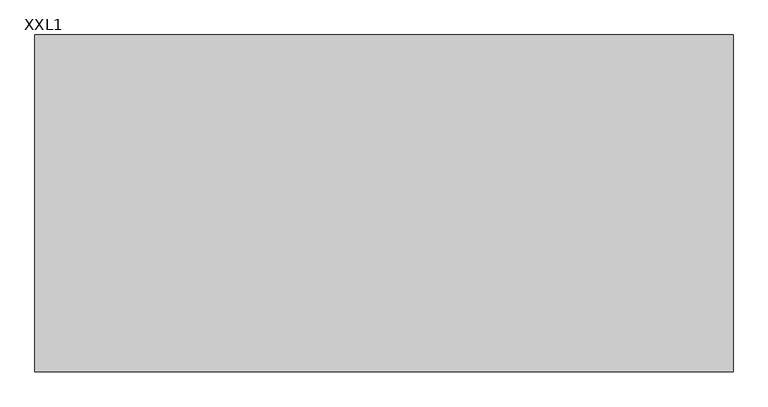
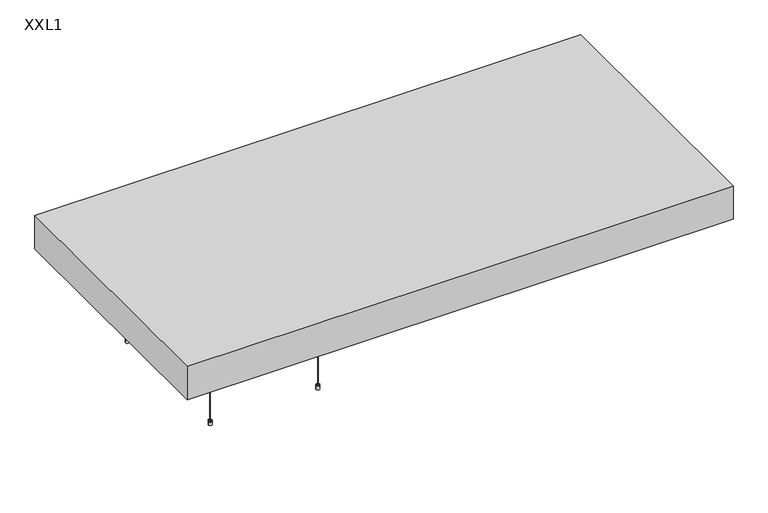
"""IFC4 building model written with IfcOpenShell, lengths in millimetres: proxy geometry, OWA Corpus : XXL1."""

from ifc_helpers import new_model, si_unit, point, frame, frame_2d, origin, place, context, project, spatial, polyline, circle_curve, trimmed, segment, composite_curve, outline, extrude, faceted_brep, source, transform, mapped, element, save
from ifc_brep_helpers import plane_surface, cylinder_surface, revolved_surface, advanced_brep


def xxl1_e1fdb5e4(model_context):
    return source(origin(), model_context, "Body", "SolidModel", [
        advanced_brep(
        [(-891.0, -305.0, 0.0), (-883.2593825, -305.0, 0.0), (-898.7406175, -305.0, 0.0), (-883.2593825, -305.0, 15.0), (-898.7406175, -305.0, 15.0), (-884.1843825, -305.0, 15.0), (-897.8156175, -305.0, 15.0), (-884.1843825, -305.0, 19.0), (-897.8156175, -305.0, 19.0), (-888.9343825, -305.0, 19.0), (-893.0656175, -305.0, 19.0), (-888.9343825, -305.0, 22.546183), (-893.0656175, -305.0, 22.546183), (-891.0, -305.0, 22.546183)],
        [
            (0, 1),
            (1, 2, circle_curve(frame((-891.0, -305.0, 0.0), z_axis=(0.0, 0.0, -1.0), x_axis=(-1.0, 0.0, 0.0)), 7.7406175)),
            (2, 0),
            (2, 1, circle_curve(frame((-891.0, -305.0, 0.0), z_axis=(0.0, 0.0, -1.0), x_axis=(-1.0, 0.0, 0.0)), 7.7406175)),
            (1, 3),
            (3, 4, circle_curve(frame((-891.0, -305.0, 15.0), z_axis=(0.0, 0.0, -1.0), x_axis=(-1.0, 0.0, 0.0)), 7.7406175)),
            (4, 2),
            (4, 3, circle_curve(frame((-891.0, -305.0, 15.0), z_axis=(0.0, 0.0, -1.0), x_axis=(-1.0, 0.0, 0.0)), 7.7406175)),
            (3, 5),
            (5, 6, circle_curve(frame((-891.0, -305.0, 15.0), z_axis=(0.0, 0.0, -1.0), x_axis=(-1.0, 0.0, 0.0)), 6.8156175)),
            (6, 4),
            (6, 5, circle_curve(frame((-891.0, -305.0, 15.0), z_axis=(0.0, 0.0, -1.0), x_axis=(-1.0, 0.0, 0.0)), 6.8156175)),
            (5, 7),
            (7, 8, circle_curve(frame((-891.0, -305.0, 19.0), z_axis=(0.0, 0.0, -1.0), x_axis=(-1.0, 0.0, 0.0)), 6.8156175)),
            (8, 6),
            (8, 7, circle_curve(frame((-891.0, -305.0, 19.0), z_axis=(0.0, 0.0, -1.0), x_axis=(-1.0, 0.0, 0.0)), 6.8156175)),
            (7, 9),
            (9, 10, circle_curve(frame((-891.0, -305.0, 19.0), z_axis=(0.0, 0.0, -1.0), x_axis=(-1.0, 0.0, 0.0)), 2.0656175)),
            (10, 8),
            (10, 9, circle_curve(frame((-891.0, -305.0, 19.0), z_axis=(0.0, 0.0, -1.0), x_axis=(-1.0, 0.0, 0.0)), 2.0656175)),
            (9, 11),
            (11, 12, circle_curve(frame((-891.0, -305.0, 22.546183), z_axis=(0.0, 0.0, -1.0), x_axis=(-1.0, 0.0, 0.0)), 2.0656175)),
            (12, 10),
            (12, 11, circle_curve(frame((-891.0, -305.0, 22.546183), z_axis=(0.0, 0.0, -1.0), x_axis=(-1.0, 0.0, 0.0)), 2.0656175)),
            (11, 13),
            (13, 12),
        ],
        [
            plane_surface(frame((-891.0, -305.0, 0.0), z_axis=(0.0, 0.0, -1.0), x_axis=(-1.0, 0.0, 0.0))),
            cylinder_surface(frame((-891.0, -305.0, -10.0), z_axis=(0.0, 0.0, -1.0), x_axis=(-1.0, 0.0, 0.0)), 7.7406175),
            plane_surface(frame((-891.0, -305.0, 15.0), z_axis=(0.0, 0.0, 1.0), x_axis=(-1.0, 0.0, 0.0))),
            cylinder_surface(frame((-891.0, -305.0, -10.0), z_axis=(0.0, 0.0, -1.0), x_axis=(-1.0, 0.0, 0.0)), 6.8156175),
            plane_surface(frame((-891.0, -305.0, 19.0), z_axis=(0.0, 0.0, 1.0), x_axis=(-1.0, 0.0, 0.0))),
            cylinder_surface(frame((-891.0, -305.0, -10.0), z_axis=(0.0, 0.0, -1.0), x_axis=(-1.0, 0.0, 0.0)), 2.0656175),
            plane_surface(frame((-891.0, -305.0, 22.546183), z_axis=(0.0, 0.0, 1.0), x_axis=(-1.0, 0.0, 0.0))),
        ],
        [
            (0, [[1, 2, 3]]),
            (0, [[-3, 4, -1]]),
            (1, [[5, 6, 7, -2]]),
            (1, [[-7, 8, -5, -4]]),
            (2, [[9, 10, 11, -6]]),
            (2, [[-11, 12, -9, -8]]),
            (3, [[13, 14, 15, -10]]),
            (3, [[-15, 16, -13, -12]]),
            (4, [[17, 18, 19, -14]]),
            (4, [[-19, 20, -17, -16]]),
            (5, [[21, 22, 23, -18]]),
            (5, [[-23, 24, -21, -20]]),
            (6, [[25, 26, -22]]),
            (6, [[-26, -25, -24]]),
        ],
    ),
        advanced_brep(
        [(-888.7615389, -305.0, 428.8211737), (-888.6339453, -305.0, 432.8711737), (-893.3660547, -305.0, 432.8711737), (-893.2384611, -305.0, 428.8211737), (-886.1339453, -305.0, 432.8711737), (-895.8660547, -305.0, 432.8711737), (-886.1339453, -305.0, 458.1211737), (-895.8660547, -305.0, 458.1211737), (-875.1339453, -305.0, 458.1211737), (-906.8660547, -305.0, 458.1211737), (-875.1339453, -305.0, 460.0), (-906.8660547, -305.0, 460.0), (-891.0, -305.0, 460.0), (-891.0, -305.0, 428.8211737)],
        [
            (0, 1),
            (1, 2, circle_curve(frame((-891.0, -305.0, 432.8711737), z_axis=(0.0, 0.0, -1.0), x_axis=(-1.0, 0.0, 0.0)), 2.3660547)),
            (2, 3),
            (3, 0, circle_curve(frame((-891.0, -305.0, 428.8211737), z_axis=(0.0, 0.0, 1.0), x_axis=(-1.0, 0.0, 0.0)), 2.2384611)),
            (2, 1, circle_curve(frame((-891.0, -305.0, 432.8711737), z_axis=(0.0, 0.0, -1.0), x_axis=(-1.0, 0.0, 0.0)), 2.3660547)),
            (0, 3, circle_curve(frame((-891.0, -305.0, 428.8211737), z_axis=(0.0, 0.0, 1.0), x_axis=(-1.0, 0.0, 0.0)), 2.2384611)),
            (1, 4),
            (4, 5, circle_curve(frame((-891.0, -305.0, 432.8711737), z_axis=(0.0, 0.0, -1.0), x_axis=(-1.0, 0.0, 0.0)), 4.8660547)),
            (5, 2),
            (5, 4, circle_curve(frame((-891.0, -305.0, 432.8711737), z_axis=(0.0, 0.0, -1.0), x_axis=(-1.0, 0.0, 0.0)), 4.8660547)),
            (4, 6),
            (6, 7, circle_curve(frame((-891.0, -305.0, 458.1211737), z_axis=(0.0, 0.0, -1.0), x_axis=(-1.0, 0.0, 0.0)), 4.8660547)),
            (7, 5),
            (7, 6, circle_curve(frame((-891.0, -305.0, 458.1211737), z_axis=(0.0, 0.0, -1.0), x_axis=(-1.0, 0.0, 0.0)), 4.8660547)),
            (6, 8),
            (8, 9, circle_curve(frame((-891.0, -305.0, 458.1211737), z_axis=(0.0, 0.0, -1.0), x_axis=(-1.0, 0.0, 0.0)), 15.8660547)),
            (9, 7),
            (9, 8, circle_curve(frame((-891.0, -305.0, 458.1211737), z_axis=(0.0, 0.0, -1.0), x_axis=(-1.0, 0.0, 0.0)), 15.8660547)),
            (8, 10),
            (10, 11, circle_curve(frame((-891.0, -305.0, 460.0), z_axis=(0.0, 0.0, -1.0), x_axis=(-1.0, 0.0, 0.0)), 15.8660547)),
            (11, 9),
            (11, 10, circle_curve(frame((-891.0, -305.0, 460.0), z_axis=(0.0, 0.0, -1.0), x_axis=(-1.0, 0.0, 0.0)), 15.8660547)),
            (10, 12),
            (12, 11),
            (13, 0),
            (3, 13),
        ],
        [
            revolved_surface(polyline([(-893.3660547, -305.0, 432.8711737), (-893.2384611, -305.0, 428.8211737)]), (-891.0, -305.0, 461.8401096), (0.0, 0.0, -1.0)),
            plane_surface(frame((-891.0, -305.0, 432.8711737), z_axis=(0.0, 0.0, -1.0), x_axis=(-1.0, 0.0, 0.0))),
            cylinder_surface(frame((-891.0, -305.0, 461.8401096), z_axis=(0.0, 0.0, -1.0), x_axis=(-1.0, 0.0, 0.0)), 4.8660547),
            plane_surface(frame((-891.0, -305.0, 458.1211737), z_axis=(0.0, 0.0, -1.0), x_axis=(-1.0, 0.0, 0.0))),
            cylinder_surface(frame((-891.0, -305.0, 461.8401096), z_axis=(0.0, 0.0, -1.0), x_axis=(-1.0, 0.0, 0.0)), 15.8660547),
            plane_surface(frame((-891.0, -305.0, 460.0), z_axis=(0.0, 0.0, 1.0), x_axis=(-1.0, 0.0, 0.0))),
            plane_surface(frame((-891.0, -305.0, 428.8211737), z_axis=(0.0, 0.0, -1.0), x_axis=(-1.0, 0.0, 0.0))),
        ],
        [
            (0, [[1, 2, 3, 4]]),
            (0, [[-3, 5, -1, 6]]),
            (1, [[7, 8, 9, -2]]),
            (1, [[-9, 10, -7, -5]]),
            (2, [[11, 12, 13, -8]]),
            (2, [[-13, 14, -11, -10]]),
            (3, [[15, 16, 17, -12]]),
            (3, [[-17, 18, -15, -14]]),
            (4, [[19, 20, 21, -16]]),
            (4, [[-21, 22, -19, -18]]),
            (5, [[23, 24, -20]]),
            (5, [[-24, -23, -22]]),
            (6, [[25, -4, 26]]),
            (6, [[-26, -6, -25]]),
        ],
    ),
        extrude(outline(composite_curve([segment(trimmed(circle_curve(frame_2d((-891.0, -305.0)), 1.0), [point((-892.0, -305.0))], [point((-890.0, -305.0))], False, "CARTESIAN"), True, "CONTINUOUS"), segment(trimmed(circle_curve(frame_2d((-891.0, -305.0)), 1.0), [point((-890.0, -305.0))], [point((-892.0, -305.0))], False, "CARTESIAN"), True, "CONTINUOUS")], self_intersect=False)), frame((0.0, 0.0, 22.546183), z_axis=(0.0, 0.0, 1.0), x_axis=(1.0, 0.0, 0.0)), (0.0, 0.0, 1.0), 406.2749908),
        advanced_brep(
        [(-891.0, 305.0, 0.0), (-898.7406175, 305.0, 0.0), (-883.2593825, 305.0, 0.0), (-898.7406175, 305.0, 15.0), (-883.2593825, 305.0, 15.0), (-897.8156175, 305.0, 15.0), (-884.1843825, 305.0, 15.0), (-897.8156175, 305.0, 19.0), (-884.1843825, 305.0, 19.0), (-893.0656175, 305.0, 19.0), (-888.9343825, 305.0, 19.0), (-893.0656175, 305.0, 22.546183), (-888.9343825, 305.0, 22.546183), (-891.0, 305.0, 22.546183)],
        [
            (0, 1),
            (1, 2, circle_curve(frame((-891.0, 305.0, 0.0), z_axis=(0.0, 0.0, -1.0), x_axis=(-1.0, 0.0, 0.0)), 7.7406175)),
            (2, 0),
            (2, 1, circle_curve(frame((-891.0, 305.0, 0.0), z_axis=(0.0, 0.0, -1.0), x_axis=(-1.0, 0.0, 0.0)), 7.7406175)),
            (1, 3),
            (3, 4, circle_curve(frame((-891.0, 305.0, 15.0), z_axis=(0.0, 0.0, -1.0), x_axis=(-1.0, 0.0, 0.0)), 7.7406175)),
            (4, 2),
            (4, 3, circle_curve(frame((-891.0, 305.0, 15.0), z_axis=(0.0, 0.0, -1.0), x_axis=(-1.0, 0.0, 0.0)), 7.7406175)),
            (3, 5),
            (5, 6, circle_curve(frame((-891.0, 305.0, 15.0), z_axis=(0.0, 0.0, -1.0), x_axis=(-1.0, 0.0, 0.0)), 6.8156175)),
            (6, 4),
            (6, 5, circle_curve(frame((-891.0, 305.0, 15.0), z_axis=(0.0, 0.0, -1.0), x_axis=(-1.0, 0.0, 0.0)), 6.8156175)),
            (5, 7),
            (7, 8, circle_curve(frame((-891.0, 305.0, 19.0), z_axis=(0.0, 0.0, -1.0), x_axis=(-1.0, 0.0, 0.0)), 6.8156175)),
            (8, 6),
            (8, 7, circle_curve(frame((-891.0, 305.0, 19.0), z_axis=(0.0, 0.0, -1.0), x_axis=(-1.0, 0.0, 0.0)), 6.8156175)),
            (7, 9),
            (9, 10, circle_curve(frame((-891.0, 305.0, 19.0), z_axis=(0.0, 0.0, -1.0), x_axis=(-1.0, 0.0, 0.0)), 2.0656175)),
            (10, 8),
            (10, 9, circle_curve(frame((-891.0, 305.0, 19.0), z_axis=(0.0, 0.0, -1.0), x_axis=(-1.0, 0.0, 0.0)), 2.0656175)),
            (9, 11),
            (11, 12, circle_curve(frame((-891.0, 305.0, 22.546183), z_axis=(0.0, 0.0, -1.0), x_axis=(-1.0, 0.0, 0.0)), 2.0656175)),
            (12, 10),
            (12, 11, circle_curve(frame((-891.0, 305.0, 22.546183), z_axis=(0.0, 0.0, -1.0), x_axis=(-1.0, 0.0, 0.0)), 2.0656175)),
            (11, 13),
            (13, 12),
        ],
        [
            plane_surface(frame((-891.0, 305.0, 0.0), z_axis=(0.0, 0.0, -1.0), x_axis=(-1.0, 0.0, 0.0))),
            cylinder_surface(frame((-891.0, 305.0, -10.0), z_axis=(0.0, 0.0, -1.0), x_axis=(-1.0, 0.0, 0.0)), 7.7406175),
            plane_surface(frame((-891.0, 305.0, 15.0), z_axis=(0.0, 0.0, 1.0), x_axis=(-1.0, 0.0, 0.0))),
            cylinder_surface(frame((-891.0, 305.0, -10.0), z_axis=(0.0, 0.0, -1.0), x_axis=(-1.0, 0.0, 0.0)), 6.8156175),
            plane_surface(frame((-891.0, 305.0, 19.0), z_axis=(0.0, 0.0, 1.0), x_axis=(-1.0, 0.0, 0.0))),
            cylinder_surface(frame((-891.0, 305.0, -10.0), z_axis=(0.0, 0.0, -1.0), x_axis=(-1.0, 0.0, 0.0)), 2.0656175),
            plane_surface(frame((-891.0, 305.0, 22.546183), z_axis=(0.0, 0.0, 1.0), x_axis=(-1.0, 0.0, 0.0))),
        ],
        [
            (0, [[1, 2, 3]]),
            (0, [[-3, 4, -1]]),
            (1, [[-2, 5, 6, 7]]),
            (1, [[-4, -7, 8, -5]]),
            (2, [[-6, 9, 10, 11]]),
            (2, [[-8, -11, 12, -9]]),
            (3, [[-10, 13, 14, 15]]),
            (3, [[-12, -15, 16, -13]]),
            (4, [[-14, 17, 18, 19]]),
            (4, [[-16, -19, 20, -17]]),
            (5, [[-18, 21, 22, 23]]),
            (5, [[-20, -23, 24, -21]]),
            (6, [[-22, 25, 26]]),
            (6, [[-24, -26, -25]]),
        ],
    ),
        advanced_brep(
        [(-888.7615389, 305.0, 428.8211737), (-893.2384611, 305.0, 428.8211737), (-893.3660547, 305.0, 432.8711737), (-888.6339453, 305.0, 432.8711737), (-895.8660547, 305.0, 432.8711737), (-886.1339453, 305.0, 432.8711737), (-895.8660547, 305.0, 458.1211737), (-886.1339453, 305.0, 458.1211737), (-906.8660547, 305.0, 458.1211737), (-875.1339453, 305.0, 458.1211737), (-906.8660547, 305.0, 460.0), (-875.1339453, 305.0, 460.0), (-891.0, 305.0, 460.0), (-891.0, 305.0, 428.8211737)],
        [
            (0, 1, circle_curve(frame((-891.0, 305.0, 428.8211737), z_axis=(0.0, 0.0, 1.0), x_axis=(-1.0, 0.0, 0.0)), 2.2384611)),
            (1, 2),
            (2, 3, circle_curve(frame((-891.0, 305.0, 432.8711737), z_axis=(0.0, 0.0, -1.0), x_axis=(-1.0, 0.0, 0.0)), 2.3660547)),
            (3, 0),
            (1, 0, circle_curve(frame((-891.0, 305.0, 428.8211737), z_axis=(0.0, 0.0, 1.0), x_axis=(-1.0, 0.0, 0.0)), 2.2384611)),
            (3, 2, circle_curve(frame((-891.0, 305.0, 432.8711737), z_axis=(0.0, 0.0, -1.0), x_axis=(-1.0, 0.0, 0.0)), 2.3660547)),
            (2, 4),
            (4, 5, circle_curve(frame((-891.0, 305.0, 432.8711737), z_axis=(0.0, 0.0, -1.0), x_axis=(-1.0, 0.0, 0.0)), 4.8660547)),
            (5, 3),
            (5, 4, circle_curve(frame((-891.0, 305.0, 432.8711737), z_axis=(0.0, 0.0, -1.0), x_axis=(-1.0, 0.0, 0.0)), 4.8660547)),
            (4, 6),
            (6, 7, circle_curve(frame((-891.0, 305.0, 458.1211737), z_axis=(0.0, 0.0, -1.0), x_axis=(-1.0, 0.0, 0.0)), 4.8660547)),
            (7, 5),
            (7, 6, circle_curve(frame((-891.0, 305.0, 458.1211737), z_axis=(0.0, 0.0, -1.0), x_axis=(-1.0, 0.0, 0.0)), 4.8660547)),
            (6, 8),
            (8, 9, circle_curve(frame((-891.0, 305.0, 458.1211737), z_axis=(0.0, 0.0, -1.0), x_axis=(-1.0, 0.0, 0.0)), 15.8660547)),
            (9, 7),
            (9, 8, circle_curve(frame((-891.0, 305.0, 458.1211737), z_axis=(0.0, 0.0, -1.0), x_axis=(-1.0, 0.0, 0.0)), 15.8660547)),
            (8, 10),
            (10, 11, circle_curve(frame((-891.0, 305.0, 460.0), z_axis=(0.0, 0.0, -1.0), x_axis=(-1.0, 0.0, 0.0)), 15.8660547)),
            (11, 9),
            (11, 10, circle_curve(frame((-891.0, 305.0, 460.0), z_axis=(0.0, 0.0, -1.0), x_axis=(-1.0, 0.0, 0.0)), 15.8660547)),
            (10, 12),
            (12, 11),
            (13, 1),
            (0, 13),
        ],
        [
            revolved_surface(polyline([(-893.3660547, 305.0, 432.8711737), (-893.2384611, 305.0, 428.8211737)]), (-891.0, 305.0, 461.8401096), (0.0, 0.0, -1.0)),
            plane_surface(frame((-891.0, 305.0, 432.8711737), z_axis=(0.0, 0.0, -1.0), x_axis=(-1.0, 0.0, 0.0))),
            cylinder_surface(frame((-891.0, 305.0, 461.8401096), z_axis=(0.0, 0.0, -1.0), x_axis=(-1.0, 0.0, 0.0)), 4.8660547),
            plane_surface(frame((-891.0, 305.0, 458.1211737), z_axis=(0.0, 0.0, -1.0), x_axis=(-1.0, 0.0, 0.0))),
            cylinder_surface(frame((-891.0, 305.0, 461.8401096), z_axis=(0.0, 0.0, -1.0), x_axis=(-1.0, 0.0, 0.0)), 15.8660547),
            plane_surface(frame((-891.0, 305.0, 460.0), z_axis=(0.0, 0.0, 1.0), x_axis=(-1.0, 0.0, 0.0))),
            plane_surface(frame((-891.0, 305.0, 428.8211737), z_axis=(0.0, 0.0, -1.0), x_axis=(-1.0, 0.0, 0.0))),
        ],
        [
            (0, [[1, 2, 3, 4]]),
            (0, [[5, -4, 6, -2]]),
            (1, [[-3, 7, 8, 9]]),
            (1, [[-6, -9, 10, -7]]),
            (2, [[-8, 11, 12, 13]]),
            (2, [[-10, -13, 14, -11]]),
            (3, [[-12, 15, 16, 17]]),
            (3, [[-14, -17, 18, -15]]),
            (4, [[-16, 19, 20, 21]]),
            (4, [[-18, -21, 22, -19]]),
            (5, [[-20, 23, 24]]),
            (5, [[-22, -24, -23]]),
            (6, [[25, -1, 26]]),
            (6, [[-26, -5, -25]]),
        ],
    ),
        extrude(outline(composite_curve([segment(trimmed(circle_curve(frame_2d((-891.0, 305.0)), 1.0), [point((-892.0, 305.0))], [point((-890.0, 305.0))], False, "CARTESIAN"), True, "CONTINUOUS"), segment(trimmed(circle_curve(frame_2d((-891.0, 305.0)), 1.0), [point((-890.0, 305.0))], [point((-892.0, 305.0))], False, "CARTESIAN"), True, "CONTINUOUS")], self_intersect=False)), frame((0.0, 0.0, 22.546183), z_axis=(0.0, 0.0, 1.0), x_axis=(1.0, 0.0, 0.0)), (0.0, 0.0, 1.0), 406.2749908),
        advanced_brep(
        [(-1348.5, -305.0, 0.0), (-1340.7593825, -305.0, 0.0), (-1356.2406175, -305.0, 0.0), (-1340.7593825, -305.0, 15.0), (-1356.2406175, -305.0, 15.0), (-1341.6843825, -305.0, 15.0), (-1355.3156175, -305.0, 15.0), (-1341.6843825, -305.0, 19.0), (-1355.3156175, -305.0, 19.0), (-1346.4343825, -305.0, 19.0), (-1350.5656175, -305.0, 19.0), (-1346.4343825, -305.0, 22.546183), (-1350.5656175, -305.0, 22.546183), (-1348.5, -305.0, 22.546183)],
        [
            (0, 1),
            (1, 2, circle_curve(frame((-1348.5, -305.0, 0.0), z_axis=(0.0, 0.0, -1.0), x_axis=(-1.0, 0.0, 0.0)), 7.7406175)),
            (2, 0),
            (2, 1, circle_curve(frame((-1348.5, -305.0, 0.0), z_axis=(0.0, 0.0, -1.0), x_axis=(-1.0, 0.0, 0.0)), 7.7406175)),
            (1, 3),
            (3, 4, circle_curve(frame((-1348.5, -305.0, 15.0), z_axis=(0.0, 0.0, -1.0), x_axis=(-1.0, 0.0, 0.0)), 7.7406175)),
            (4, 2),
            (4, 3, circle_curve(frame((-1348.5, -305.0, 15.0), z_axis=(0.0, 0.0, -1.0), x_axis=(-1.0, 0.0, 0.0)), 7.7406175)),
            (3, 5),
            (5, 6, circle_curve(frame((-1348.5, -305.0, 15.0), z_axis=(0.0, 0.0, -1.0), x_axis=(-1.0, 0.0, 0.0)), 6.8156175)),
            (6, 4),
            (6, 5, circle_curve(frame((-1348.5, -305.0, 15.0), z_axis=(0.0, 0.0, -1.0), x_axis=(-1.0, 0.0, 0.0)), 6.8156175)),
            (5, 7),
            (7, 8, circle_curve(frame((-1348.5, -305.0, 19.0), z_axis=(0.0, 0.0, -1.0), x_axis=(-1.0, 0.0, 0.0)), 6.8156175)),
            (8, 6),
            (8, 7, circle_curve(frame((-1348.5, -305.0, 19.0), z_axis=(0.0, 0.0, -1.0), x_axis=(-1.0, 0.0, 0.0)), 6.8156175)),
            (7, 9),
            (9, 10, circle_curve(frame((-1348.5, -305.0, 19.0), z_axis=(0.0, 0.0, -1.0), x_axis=(-1.0, 0.0, 0.0)), 2.0656175)),
            (10, 8),
            (10, 9, circle_curve(frame((-1348.5, -305.0, 19.0), z_axis=(0.0, 0.0, -1.0), x_axis=(-1.0, 0.0, 0.0)), 2.0656175)),
            (9, 11),
            (11, 12, circle_curve(frame((-1348.5, -305.0, 22.546183), z_axis=(0.0, 0.0, -1.0), x_axis=(-1.0, 0.0, 0.0)), 2.0656175)),
            (12, 10),
            (12, 11, circle_curve(frame((-1348.5, -305.0, 22.546183), z_axis=(0.0, 0.0, -1.0), x_axis=(-1.0, 0.0, 0.0)), 2.0656175)),
            (11, 13),
            (13, 12),
        ],
        [
            plane_surface(frame((-1348.5, -305.0, 0.0), z_axis=(0.0, 0.0, -1.0), x_axis=(-1.0, 0.0, 0.0))),
            cylinder_surface(frame((-1348.5, -305.0, -10.0), z_axis=(0.0, 0.0, -1.0), x_axis=(-1.0, 0.0, 0.0)), 7.7406175),
            plane_surface(frame((-1348.5, -305.0, 15.0), z_axis=(0.0, 0.0, 1.0), x_axis=(-1.0, 0.0, 0.0))),
            cylinder_surface(frame((-1348.5, -305.0, -10.0), z_axis=(0.0, 0.0, -1.0), x_axis=(-1.0, 0.0, 0.0)), 6.8156175),
            plane_surface(frame((-1348.5, -305.0, 19.0), z_axis=(0.0, 0.0, 1.0), x_axis=(-1.0, 0.0, 0.0))),
            cylinder_surface(frame((-1348.5, -305.0, -10.0), z_axis=(0.0, 0.0, -1.0), x_axis=(-1.0, 0.0, 0.0)), 2.0656175),
            plane_surface(frame((-1348.5, -305.0, 22.546183), z_axis=(0.0, 0.0, 1.0), x_axis=(-1.0, 0.0, 0.0))),
        ],
        [
            (0, [[1, 2, 3]]),
            (0, [[-3, 4, -1]]),
            (1, [[5, 6, 7, -2]]),
            (1, [[-7, 8, -5, -4]]),
            (2, [[9, 10, 11, -6]]),
            (2, [[-11, 12, -9, -8]]),
            (3, [[13, 14, 15, -10]]),
            (3, [[-15, 16, -13, -12]]),
            (4, [[17, 18, 19, -14]]),
            (4, [[-19, 20, -17, -16]]),
            (5, [[21, 22, 23, -18]]),
            (5, [[-23, 24, -21, -20]]),
            (6, [[25, 26, -22]]),
            (6, [[-26, -25, -24]]),
        ],
    ),
        advanced_brep(
        [(-1346.2615389, -305.0, 428.8211737), (-1346.1339453, -305.0, 432.8711737), (-1350.8660547, -305.0, 432.8711737), (-1350.7384611, -305.0, 428.8211737), (-1343.6339453, -305.0, 432.8711737), (-1353.3660547, -305.0, 432.8711737), (-1343.6339453, -305.0, 458.1211737), (-1353.3660547, -305.0, 458.1211737), (-1332.6339453, -305.0, 458.1211737), (-1364.3660547, -305.0, 458.1211737), (-1332.6339453, -305.0, 460.0), (-1364.3660547, -305.0, 460.0), (-1348.5, -305.0, 460.0), (-1348.5, -305.0, 428.8211737)],
        [
            (0, 1),
            (1, 2, circle_curve(frame((-1348.5, -305.0, 432.8711737), z_axis=(0.0, 0.0, -1.0), x_axis=(-1.0, 0.0, 0.0)), 2.3660547)),
            (2, 3),
            (3, 0, circle_curve(frame((-1348.5, -305.0, 428.8211737), z_axis=(0.0, 0.0, 1.0), x_axis=(-1.0, 0.0, 0.0)), 2.2384611)),
            (2, 1, circle_curve(frame((-1348.5, -305.0, 432.8711737), z_axis=(0.0, 0.0, -1.0), x_axis=(-1.0, 0.0, 0.0)), 2.3660547)),
            (0, 3, circle_curve(frame((-1348.5, -305.0, 428.8211737), z_axis=(0.0, 0.0, 1.0), x_axis=(-1.0, 0.0, 0.0)), 2.2384611)),
            (1, 4),
            (4, 5, circle_curve(frame((-1348.5, -305.0, 432.8711737), z_axis=(0.0, 0.0, -1.0), x_axis=(-1.0, 0.0, 0.0)), 4.8660547)),
            (5, 2),
            (5, 4, circle_curve(frame((-1348.5, -305.0, 432.8711737), z_axis=(0.0, 0.0, -1.0), x_axis=(-1.0, 0.0, 0.0)), 4.8660547)),
            (4, 6),
            (6, 7, circle_curve(frame((-1348.5, -305.0, 458.1211737), z_axis=(0.0, 0.0, -1.0), x_axis=(-1.0, 0.0, 0.0)), 4.8660547)),
            (7, 5),
            (7, 6, circle_curve(frame((-1348.5, -305.0, 458.1211737), z_axis=(0.0, 0.0, -1.0), x_axis=(-1.0, 0.0, 0.0)), 4.8660547)),
            (6, 8),
            (8, 9, circle_curve(frame((-1348.5, -305.0, 458.1211737), z_axis=(0.0, 0.0, -1.0), x_axis=(-1.0, 0.0, 0.0)), 15.8660547)),
            (9, 7),
            (9, 8, circle_curve(frame((-1348.5, -305.0, 458.1211737), z_axis=(0.0, 0.0, -1.0), x_axis=(-1.0, 0.0, 0.0)), 15.8660547)),
            (8, 10),
            (10, 11, circle_curve(frame((-1348.5, -305.0, 460.0), z_axis=(0.0, 0.0, -1.0), x_axis=(-1.0, 0.0, 0.0)), 15.8660547)),
            (11, 9),
            (11, 10, circle_curve(frame((-1348.5, -305.0, 460.0), z_axis=(0.0, 0.0, -1.0), x_axis=(-1.0, 0.0, 0.0)), 15.8660547)),
            (10, 12),
            (12, 11),
            (13, 0),
            (3, 13),
        ],
        [
            revolved_surface(polyline([(-1350.8660547, -305.0, 432.8711737), (-1350.7384611, -305.0, 428.8211737)]), (-1348.5, -305.0, 461.8401096), (0.0, 0.0, -1.0)),
            plane_surface(frame((-1348.5, -305.0, 432.8711737), z_axis=(0.0, 0.0, -1.0), x_axis=(-1.0, 0.0, 0.0))),
            cylinder_surface(frame((-1348.5, -305.0, 461.8401096), z_axis=(0.0, 0.0, -1.0), x_axis=(-1.0, 0.0, 0.0)), 4.8660547),
            plane_surface(frame((-1348.5, -305.0, 458.1211737), z_axis=(0.0, 0.0, -1.0), x_axis=(-1.0, 0.0, 0.0))),
            cylinder_surface(frame((-1348.5, -305.0, 461.8401096), z_axis=(0.0, 0.0, -1.0), x_axis=(-1.0, 0.0, 0.0)), 15.8660547),
            plane_surface(frame((-1348.5, -305.0, 460.0), z_axis=(0.0, 0.0, 1.0), x_axis=(-1.0, 0.0, 0.0))),
            plane_surface(frame((-1348.5, -305.0, 428.8211737), z_axis=(0.0, 0.0, -1.0), x_axis=(-1.0, 0.0, 0.0))),
        ],
        [
            (0, [[1, 2, 3, 4]]),
            (0, [[-3, 5, -1, 6]]),
            (1, [[7, 8, 9, -2]]),
            (1, [[-9, 10, -7, -5]]),
            (2, [[11, 12, 13, -8]]),
            (2, [[-13, 14, -11, -10]]),
            (3, [[15, 16, 17, -12]]),
            (3, [[-17, 18, -15, -14]]),
            (4, [[19, 20, 21, -16]]),
            (4, [[-21, 22, -19, -18]]),
            (5, [[23, 24, -20]]),
            (5, [[-24, -23, -22]]),
            (6, [[25, -4, 26]]),
            (6, [[-26, -6, -25]]),
        ],
    ),
        extrude(outline(composite_curve([segment(trimmed(circle_curve(frame_2d((-1348.5, -305.0)), 1.0), [point((-1349.5, -305.0))], [point((-1347.5, -305.0))], False, "CARTESIAN"), True, "CONTINUOUS"), segment(trimmed(circle_curve(frame_2d((-1348.5, -305.0)), 1.0), [point((-1347.5, -305.0))], [point((-1349.5, -305.0))], False, "CARTESIAN"), True, "CONTINUOUS")], self_intersect=False)), frame((0.0, 0.0, 22.546183), z_axis=(0.0, 0.0, 1.0), x_axis=(1.0, 0.0, 0.0)), (0.0, 0.0, 1.0), 406.2749908),
        advanced_brep(
        [(-1348.5, 305.0, 0.0), (-1356.2406175, 305.0, 0.0), (-1340.7593825, 305.0, 0.0), (-1356.2406175, 305.0, 15.0), (-1340.7593825, 305.0, 15.0), (-1355.3156175, 305.0, 15.0), (-1341.6843825, 305.0, 15.0), (-1355.3156175, 305.0, 19.0), (-1341.6843825, 305.0, 19.0), (-1350.5656175, 305.0, 19.0), (-1346.4343825, 305.0, 19.0), (-1350.5656175, 305.0, 22.546183), (-1346.4343825, 305.0, 22.546183), (-1348.5, 305.0, 22.546183)],
        [
            (0, 1),
            (1, 2, circle_curve(frame((-1348.5, 305.0, 0.0), z_axis=(0.0, 0.0, -1.0), x_axis=(-1.0, 0.0, 0.0)), 7.7406175)),
            (2, 0),
            (2, 1, circle_curve(frame((-1348.5, 305.0, 0.0), z_axis=(0.0, 0.0, -1.0), x_axis=(-1.0, 0.0, 0.0)), 7.7406175)),
            (1, 3),
            (3, 4, circle_curve(frame((-1348.5, 305.0, 15.0), z_axis=(0.0, 0.0, -1.0), x_axis=(-1.0, 0.0, 0.0)), 7.7406175)),
            (4, 2),
            (4, 3, circle_curve(frame((-1348.5, 305.0, 15.0), z_axis=(0.0, 0.0, -1.0), x_axis=(-1.0, 0.0, 0.0)), 7.7406175)),
            (3, 5),
            (5, 6, circle_curve(frame((-1348.5, 305.0, 15.0), z_axis=(0.0, 0.0, -1.0), x_axis=(-1.0, 0.0, 0.0)), 6.8156175)),
            (6, 4),
            (6, 5, circle_curve(frame((-1348.5, 305.0, 15.0), z_axis=(0.0, 0.0, -1.0), x_axis=(-1.0, 0.0, 0.0)), 6.8156175)),
            (5, 7),
            (7, 8, circle_curve(frame((-1348.5, 305.0, 19.0), z_axis=(0.0, 0.0, -1.0), x_axis=(-1.0, 0.0, 0.0)), 6.8156175)),
            (8, 6),
            (8, 7, circle_curve(frame((-1348.5, 305.0, 19.0), z_axis=(0.0, 0.0, -1.0), x_axis=(-1.0, 0.0, 0.0)), 6.8156175)),
            (7, 9),
            (9, 10, circle_curve(frame((-1348.5, 305.0, 19.0), z_axis=(0.0, 0.0, -1.0), x_axis=(-1.0, 0.0, 0.0)), 2.0656175)),
            (10, 8),
            (10, 9, circle_curve(frame((-1348.5, 305.0, 19.0), z_axis=(0.0, 0.0, -1.0), x_axis=(-1.0, 0.0, 0.0)), 2.0656175)),
            (9, 11),
            (11, 12, circle_curve(frame((-1348.5, 305.0, 22.546183), z_axis=(0.0, 0.0, -1.0), x_axis=(-1.0, 0.0, 0.0)), 2.0656175)),
            (12, 10),
            (12, 11, circle_curve(frame((-1348.5, 305.0, 22.546183), z_axis=(0.0, 0.0, -1.0), x_axis=(-1.0, 0.0, 0.0)), 2.0656175)),
            (11, 13),
            (13, 12),
        ],
        [
            plane_surface(frame((-1348.5, 305.0, 0.0), z_axis=(0.0, 0.0, -1.0), x_axis=(-1.0, 0.0, 0.0))),
            cylinder_surface(frame((-1348.5, 305.0, -10.0), z_axis=(0.0, 0.0, -1.0), x_axis=(-1.0, 0.0, 0.0)), 7.7406175),
            plane_surface(frame((-1348.5, 305.0, 15.0), z_axis=(0.0, 0.0, 1.0), x_axis=(-1.0, 0.0, 0.0))),
            cylinder_surface(frame((-1348.5, 305.0, -10.0), z_axis=(0.0, 0.0, -1.0), x_axis=(-1.0, 0.0, 0.0)), 6.8156175),
            plane_surface(frame((-1348.5, 305.0, 19.0), z_axis=(0.0, 0.0, 1.0), x_axis=(-1.0, 0.0, 0.0))),
            cylinder_surface(frame((-1348.5, 305.0, -10.0), z_axis=(0.0, 0.0, -1.0), x_axis=(-1.0, 0.0, 0.0)), 2.0656175),
            plane_surface(frame((-1348.5, 305.0, 22.546183), z_axis=(0.0, 0.0, 1.0), x_axis=(-1.0, 0.0, 0.0))),
        ],
        [
            (0, [[1, 2, 3]]),
            (0, [[-3, 4, -1]]),
            (1, [[-2, 5, 6, 7]]),
            (1, [[-4, -7, 8, -5]]),
            (2, [[-6, 9, 10, 11]]),
            (2, [[-8, -11, 12, -9]]),
            (3, [[-10, 13, 14, 15]]),
            (3, [[-12, -15, 16, -13]]),
            (4, [[-14, 17, 18, 19]]),
            (4, [[-16, -19, 20, -17]]),
            (5, [[-18, 21, 22, 23]]),
            (5, [[-20, -23, 24, -21]]),
            (6, [[-22, 25, 26]]),
            (6, [[-24, -26, -25]]),
        ],
    ),
        advanced_brep(
        [(-1346.2615389, 305.0, 428.8211737), (-1350.7384611, 305.0, 428.8211737), (-1350.8660547, 305.0, 432.8711737), (-1346.1339453, 305.0, 432.8711737), (-1353.3660547, 305.0, 432.8711737), (-1343.6339453, 305.0, 432.8711737), (-1353.3660547, 305.0, 458.1211737), (-1343.6339453, 305.0, 458.1211737), (-1364.3660547, 305.0, 458.1211737), (-1332.6339453, 305.0, 458.1211737), (-1364.3660547, 305.0, 460.0), (-1332.6339453, 305.0, 460.0), (-1348.5, 305.0, 460.0), (-1348.5, 305.0, 428.8211737)],
        [
            (0, 1, circle_curve(frame((-1348.5, 305.0, 428.8211737), z_axis=(0.0, 0.0, 1.0), x_axis=(-1.0, 0.0, 0.0)), 2.2384611)),
            (1, 2),
            (2, 3, circle_curve(frame((-1348.5, 305.0, 432.8711737), z_axis=(0.0, 0.0, -1.0), x_axis=(-1.0, 0.0, 0.0)), 2.3660547)),
            (3, 0),
            (1, 0, circle_curve(frame((-1348.5, 305.0, 428.8211737), z_axis=(0.0, 0.0, 1.0), x_axis=(-1.0, 0.0, 0.0)), 2.2384611)),
            (3, 2, circle_curve(frame((-1348.5, 305.0, 432.8711737), z_axis=(0.0, 0.0, -1.0), x_axis=(-1.0, 0.0, 0.0)), 2.3660547)),
            (2, 4),
            (4, 5, circle_curve(frame((-1348.5, 305.0, 432.8711737), z_axis=(0.0, 0.0, -1.0), x_axis=(-1.0, 0.0, 0.0)), 4.8660547)),
            (5, 3),
            (5, 4, circle_curve(frame((-1348.5, 305.0, 432.8711737), z_axis=(0.0, 0.0, -1.0), x_axis=(-1.0, 0.0, 0.0)), 4.8660547)),
            (4, 6),
            (6, 7, circle_curve(frame((-1348.5, 305.0, 458.1211737), z_axis=(0.0, 0.0, -1.0), x_axis=(-1.0, 0.0, 0.0)), 4.8660547)),
            (7, 5),
            (7, 6, circle_curve(frame((-1348.5, 305.0, 458.1211737), z_axis=(0.0, 0.0, -1.0), x_axis=(-1.0, 0.0, 0.0)), 4.8660547)),
            (6, 8),
            (8, 9, circle_curve(frame((-1348.5, 305.0, 458.1211737), z_axis=(0.0, 0.0, -1.0), x_axis=(-1.0, 0.0, 0.0)), 15.8660547)),
            (9, 7),
            (9, 8, circle_curve(frame((-1348.5, 305.0, 458.1211737), z_axis=(0.0, 0.0, -1.0), x_axis=(-1.0, 0.0, 0.0)), 15.8660547)),
            (8, 10),
            (10, 11, circle_curve(frame((-1348.5, 305.0, 460.0), z_axis=(0.0, 0.0, -1.0), x_axis=(-1.0, 0.0, 0.0)), 15.8660547)),
            (11, 9),
            (11, 10, circle_curve(frame((-1348.5, 305.0, 460.0), z_axis=(0.0, 0.0, -1.0), x_axis=(-1.0, 0.0, 0.0)), 15.8660547)),
            (10, 12),
            (12, 11),
            (13, 1),
            (0, 13),
        ],
        [
            revolved_surface(polyline([(-1350.8660547, 305.0, 432.8711737), (-1350.7384611, 305.0, 428.8211737)]), (-1348.5, 305.0, 461.8401096), (0.0, 0.0, -1.0)),
            plane_surface(frame((-1348.5, 305.0, 432.8711737), z_axis=(0.0, 0.0, -1.0), x_axis=(-1.0, 0.0, 0.0))),
            cylinder_surface(frame((-1348.5, 305.0, 461.8401096), z_axis=(0.0, 0.0, -1.0), x_axis=(-1.0, 0.0, 0.0)), 4.8660547),
            plane_surface(frame((-1348.5, 305.0, 458.1211737), z_axis=(0.0, 0.0, -1.0), x_axis=(-1.0, 0.0, 0.0))),
            cylinder_surface(frame((-1348.5, 305.0, 461.8401096), z_axis=(0.0, 0.0, -1.0), x_axis=(-1.0, 0.0, 0.0)), 15.8660547),
            plane_surface(frame((-1348.5, 305.0, 460.0), z_axis=(0.0, 0.0, 1.0), x_axis=(-1.0, 0.0, 0.0))),
            plane_surface(frame((-1348.5, 305.0, 428.8211737), z_axis=(0.0, 0.0, -1.0), x_axis=(-1.0, 0.0, 0.0))),
        ],
        [
            (0, [[1, 2, 3, 4]]),
            (0, [[5, -4, 6, -2]]),
            (1, [[-3, 7, 8, 9]]),
            (1, [[-6, -9, 10, -7]]),
            (2, [[-8, 11, 12, 13]]),
            (2, [[-10, -13, 14, -11]]),
            (3, [[-12, 15, 16, 17]]),
            (3, [[-14, -17, 18, -15]]),
            (4, [[-16, 19, 20, 21]]),
            (4, [[-18, -21, 22, -19]]),
            (5, [[-20, 23, 24]]),
            (5, [[-22, -24, -23]]),
            (6, [[25, -1, 26]]),
            (6, [[-26, -5, -25]]),
        ],
    ),
        extrude(outline(composite_curve([segment(trimmed(circle_curve(frame_2d((-1348.5, 305.0)), 1.0), [point((-1349.5, 305.0))], [point((-1347.5, 305.0))], False, "CARTESIAN"), True, "CONTINUOUS"), segment(trimmed(circle_curve(frame_2d((-1348.5, 305.0)), 1.0), [point((-1347.5, 305.0))], [point((-1349.5, 305.0))], False, "CARTESIAN"), True, "CONTINUOUS")], self_intersect=False)), frame((0.0, 0.0, 22.546183), z_axis=(0.0, 0.0, 1.0), x_axis=(1.0, 0.0, 0.0)), (0.0, 0.0, 1.0), 406.2749908),
        faceted_brep([(726.5, 560.0, 500.0), (-1593.5, 560.0, 500.0), (-1593.5, -560.0, 500.0), (726.5, -560.0, 500.0), (686.5, 520.0, 460.0), (686.5, -520.0, 460.0), (-1553.5, -520.0, 460.0), (-1553.5, 520.0, 460.0), (726.5, 560.0, 350.0), (-1593.5, 560.0, 350.0), (-1593.5, -560.0, 350.0), (726.5, -560.0, 350.0), (686.5, 520.0, 350.0), (-1553.5, 520.0, 350.0), (-1553.5, -520.0, 350.0), (686.5, -520.0, 350.0)], [[[0, 1, 2, 3]], [[4, 5, 6, 7]], [[1, 0, 8, 9]], [[2, 1, 9, 10]], [[3, 2, 10, 11]], [[8, 0, 3, 11]], [[8, 11, 10, 9], [12, 13, 14, 15]], [[12, 15, 5, 4]], [[15, 14, 6, 5]], [[14, 13, 7, 6]], [[13, 12, 4, 7]]]),
    ])


if __name__ == "__main__":
    model = new_model("IFC4")
    model_context = context("Model", 3, world=origin())
    ifc_project = project(units=[si_unit("LENGTHUNIT", "METRE", prefix="MILLI")], contexts=[model_context])
    site = spatial("IfcSite", under=ifc_project)
    building = spatial("IfcBuilding", under=site)
    placement = place(None, origin())
    xxl1_shape = xxl1_e1fdb5e4(model_context)
    element("IfcBuildingElementProxy", 1, Name="OWA Corpus : XXL1", ObjectType="OWA Corpus : XXL1", at=placement, inside=building, context=model_context, shape_type="MappedRepresentation", body=[
        mapped(xxl1_shape, transform((0.0, 0.0, 0.0), x_axis=(1.0, 0.0, 0.0), y_axis=(0.0, 1.0, 0.0), z_axis=(0.0, 0.0, 1.0))),
    ])
    save(model, "model.ifc")
